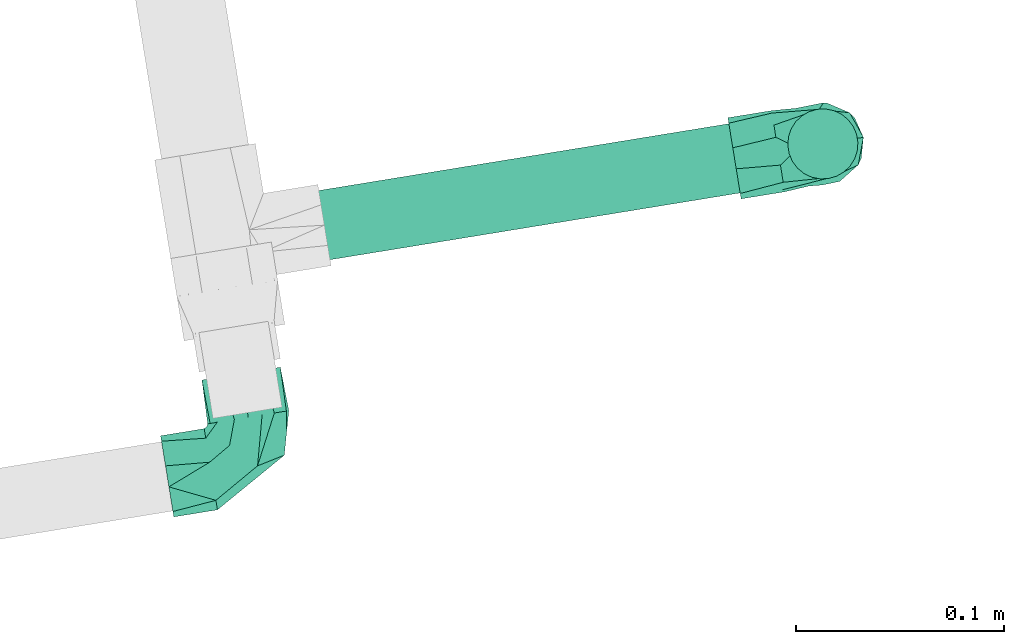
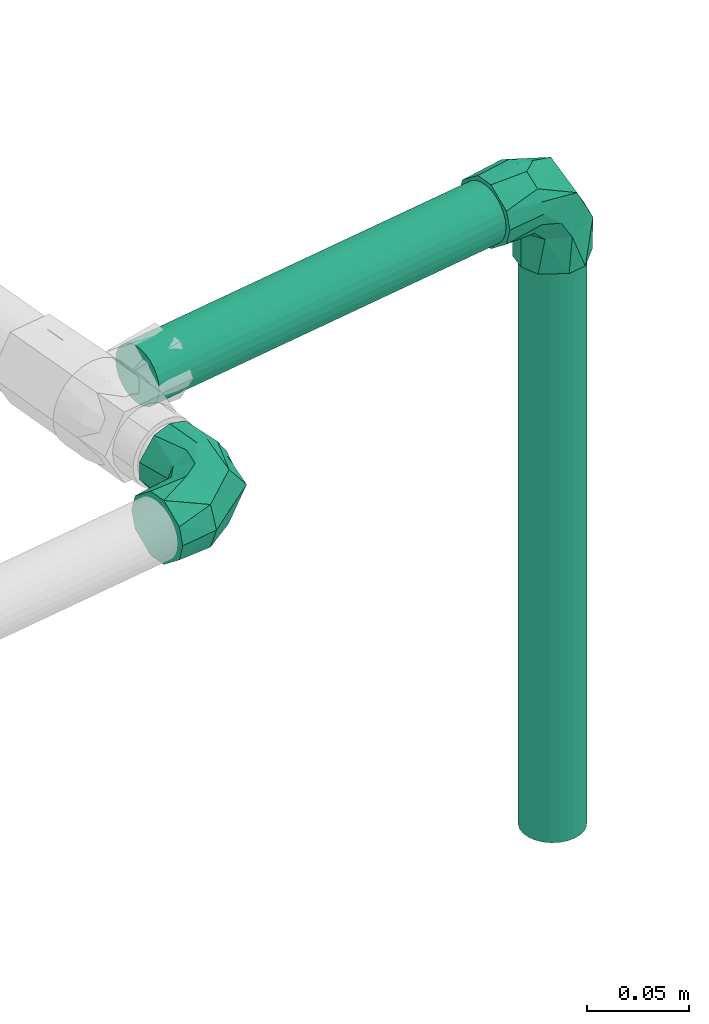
# One storey, part 26 of 46: 2 flow fittings, 2 flow segments.
"""IFC2X3 building model written with IfcOpenShell, lengths in millimetres."""

from ifc_helpers import new_model, entity, si_unit, converted_unit, derived_unit, direction, frame, frame_2d, origin, origin_with_axes, origin_2d_with_axis, place, context, subcontext, project, spatial, circle, extrude, faceted_brep, source, transform, mapped, material, type_object, element, save


model = new_model("IFC2X3")

# Units and contexts
model_context = context("Model", 3, precision=0.01, world=origin(), true_north=direction((6.12323399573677e-17, 1.0)))
plan_context = context("Plan", 3, precision=1e-05, world=origin_with_axes())
body_context = subcontext(model_context, "Body", "Model", "MODEL_VIEW")
ifc_project = project(units=[converted_unit("PLANEANGLEUNIT", "DEGREE", entity("IfcPositiveLengthMeasure", 0.0174532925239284), si_unit("PLANEANGLEUNIT", "RADIAN"), dimensions=[0, 0, 0, 0, 0, 0, 0]), si_unit("AREAUNIT", "SQUARE_METRE"), si_unit("LENGTHUNIT", "METRE", prefix="MILLI"), si_unit("MASSUNIT", "GRAM", prefix="KILO"), si_unit("POWERUNIT", "WATT"), si_unit("PRESSUREUNIT", "PASCAL", prefix="KILO"), si_unit("FORCEUNIT", "NEWTON", prefix="KILO"), si_unit("ELECTRICVOLTAGEUNIT", "VOLT"), si_unit("ELECTRICCURRENTUNIT", "AMPERE"), si_unit("THERMODYNAMICTEMPERATUREUNIT", "DEGREE_CELSIUS"), si_unit("TIMEUNIT", "SECOND"), si_unit("VOLUMEUNIT", "CUBIC_METRE"), derived_unit("LINEARVELOCITYUNIT", [(si_unit("LENGTHUNIT", "METRE"), 1), (si_unit("TIMEUNIT", "SECOND"), -1)]), derived_unit("VOLUMETRICFLOWRATEUNIT", [(si_unit("VOLUMEUNIT", "CUBIC_METRE"), 1), (si_unit("TIMEUNIT", "SECOND"), -1)]), derived_unit("THERMALTRANSMITTANCEUNIT", [(si_unit("POWERUNIT", "WATT"), 1), (si_unit("THERMODYNAMICTEMPERATUREUNIT", "KELVIN"), -1), (si_unit("AREAUNIT", "SQUARE_METRE"), -1)]), derived_unit("SOUNDPRESSUREUNIT", [(si_unit("PRESSUREUNIT", "PASCAL"), 1)])], contexts=[model_context, plan_context])

# Site, building, storey
site_placement = place(None, frame((-3.09682673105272e-06, 1.93776733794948e-05, 0.0), z_axis=(0.0, 0.0, 1.0), x_axis=(-0.160806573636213, 0.986985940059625, 0.0)))
site = spatial("IfcSite", under=ifc_project, at=site_placement, Name="Default", CompositionType="ELEMENT")
building_placement = place(site_placement, frame((0.0, 0.0, 0.0), z_axis=(0.0, 0.0, 1.0), x_axis=(1.0, -2.77555756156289e-17, 0.0)))
building = spatial("IfcBuilding", under=site, at=building_placement, Name="Bygning (endres i Project Information)", CompositionType="ELEMENT")
storey_placement = place(building_placement, frame((0.0, 0.0, 51360.0000000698), z_axis=(0.0, 0.0, 1.0), x_axis=(1.0, -2.77555756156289e-17, 0.0)))
storey = spatial("IfcBuildingStorey", under=building, at=storey_placement, Name="H01-Nivå D+0,36", CompositionType="ELEMENT", Elevation=51360.0000000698)

# Flow fittings
ifc_material = material(Name="3320.001")
pipe_fitting_type = type_object("IfcPipeFittingType", Name="RS_53_PIF_UN_Elbow-EN10241_NOR:RS_53_PIF_UN_Elbow-EN10241_NOR", PredefinedType="NOTDEFINED", material=ifc_material)
shared_shape = source(origin(), body_context, "Body", "Brep", [
    faceted_brep([(-43.0, 5.11167614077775, 19.0770350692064), (-43.0, 17.1040017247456, 9.87499999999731), (-43.0, 19.7500000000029, 0.0), (-43.0, 17.1040017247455, -9.87500000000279), (-43.0, 5.11167614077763, -19.0770350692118), (-43.0, -5.11167614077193, -19.0770350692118), (-43.0, -17.1040017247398, -9.87500000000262), (-43.0, -19.7499999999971, 0.0), (-43.0, -17.1040017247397, 9.87499999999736), (-43.0, -5.11167614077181, 19.0770350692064), (-21.7499999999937, -19.7499999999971, 0.0), (-21.7499999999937, -15.1293510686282, -12.6950870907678), (-21.7499999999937, -3.42946974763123, -19.4499675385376), (-21.7499999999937, 15.1294711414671, -12.694943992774), (-21.7499999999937, 19.7500000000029, 0.0), (-21.7499999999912, 5.85000069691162, -16.072455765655), (-21.7499999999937, 15.1294711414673, 12.6949439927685), (-21.7499999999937, 3.42965371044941, 19.4499351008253), (-21.7499999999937, -15.1293510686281, 12.6950870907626), (-5.41688095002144, -10.3200693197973, 0.0), (0.655979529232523, -2.00253561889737, 16.4678355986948), (-11.0449015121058, 9.84579831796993, 18.897380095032), (-18.5589216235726, 21.7499999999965, 6.75491881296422), (-15.1293490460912, 21.7499999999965, 12.6950895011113), (-20.3357864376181, 20.3357864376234, 0.0), (-19.7499999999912, 21.7499999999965, 0.0), (14.190054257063, 1.0, 0.0), (12.6950125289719, 21.7499999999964, 15.1294136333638), (6.75482439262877, 21.7499999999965, 18.5589559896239), (17.2232575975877, 12.3200689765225, 0.0), (-6.754824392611, 21.7499999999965, 18.558955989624), (19.7500000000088, 21.7499999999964, 0.0), (18.5589216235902, 21.7499999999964, 6.75491881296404), (0.0, 21.7499999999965, 19.7499999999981), (-18.5589216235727, 21.7499999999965, -6.75491881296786), (-10.1618436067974, 10.1618877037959, -19.0082217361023), (1.2569166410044, -0.890945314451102, -16.7093898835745), (0.0, 21.7499999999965, -19.7500000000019), (-6.75482439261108, 21.7499999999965, -18.5589559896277), (-12.6950125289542, 21.7499999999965, -15.1294136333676), (18.5589216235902, 21.7499999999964, -6.75491881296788), (15.1293490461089, 21.7499999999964, -12.6950895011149), (6.75482439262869, 21.7499999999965, -18.5589559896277), (-9.8749999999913, 43.0, 17.1040017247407), (0.0, 43.0, 19.7499999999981), (9.8750000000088, 43.0, 17.1040017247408), (19.0770350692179, 43.0, 5.11167614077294), (19.0770350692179, 43.0, -5.11167614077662), (9.87500000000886, 43.0, -17.1040017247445), (0.0, 43.0, -19.7500000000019), (-9.87499999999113, 43.0, -17.1040017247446), (-19.0770350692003, 43.0, -5.11167614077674), (-19.0770350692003, 43.0, 5.11167614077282)], [[[0, 1, 2, 3, 4, 5, 6, 7, 8, 9]], [[7, 6, 10]], [[6, 11, 10]], [[11, 6, 5]], [[11, 5, 12]], [[13, 4, 3]], [[14, 3, 2]], [[4, 13, 15, 12]], [[13, 3, 14]], [[4, 12, 5]], [[2, 1, 14]], [[1, 16, 14]], [[16, 1, 0]], [[16, 0, 17]], [[18, 9, 8]], [[10, 8, 7]], [[9, 18, 17]], [[18, 8, 10]], [[9, 17, 0]], [[18, 19, 20]], [[20, 21, 17]], [[22, 16, 23]], [[16, 17, 21]], [[24, 14, 22]], [[22, 25, 24]], [[14, 16, 22]], [[20, 26, 27]], [[27, 28, 20]], [[26, 29, 27]], [[23, 21, 30]], [[31, 32, 29]], [[18, 20, 17]], [[26, 20, 19]], [[21, 23, 16]], [[18, 10, 19]], [[33, 21, 20]], [[33, 30, 21]], [[27, 29, 32]], [[33, 20, 28]], [[14, 24, 34]], [[25, 34, 24]], [[12, 35, 36]], [[14, 34, 13]], [[36, 19, 11]], [[37, 35, 38]], [[38, 35, 39]], [[10, 11, 19]], [[34, 39, 13]], [[37, 36, 35]], [[36, 11, 12]], [[39, 35, 13]], [[40, 31, 29]], [[41, 36, 42]], [[36, 37, 42]], [[41, 40, 29]], [[26, 36, 41]], [[29, 26, 41]], [[19, 36, 26]], [[13, 35, 12, 15]], [[43, 44, 45, 46, 47, 48, 49, 50, 51, 52]], [[49, 37, 38]], [[50, 38, 39]], [[49, 38, 50]], [[51, 50, 39]], [[51, 34, 25]], [[34, 51, 39]], [[52, 25, 22]], [[22, 23, 52]], [[30, 43, 23]], [[52, 23, 43]], [[44, 43, 30]], [[33, 44, 30]], [[25, 52, 51]], [[44, 33, 28]], [[45, 28, 27]], [[44, 28, 45]], [[46, 45, 27]], [[46, 32, 31]], [[32, 46, 27]], [[47, 31, 40]], [[40, 41, 47]], [[42, 48, 41]], [[47, 41, 48]], [[49, 48, 42]], [[37, 49, 42]], [[31, 47, 46]]]),
])
for number, where, z_axis, x_axis in (
    (1, (1009037.43704419, -356019.614643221, 3400.0), (-1.0, 2.77555756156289e-17, 0.0), (0.0, 0.0, 1.0)),
    (2, (1008930.46730193, -355726.047207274, 3400.0), (0.0, 0.0, 1.0), (-2.77555756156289e-17, -1.0, 0.0)),
):
    element("IfcFlowFitting", number, at=place(storey_placement, frame(where, z_axis=z_axis, x_axis=x_axis)), inside=storey, type_object=pipe_fitting_type, material=ifc_material, Name="RS_53_PIF_UN_Elbow-EN10241_NOR:RS_53_PIF_UN_Elbow-EN10241_NOR", ObjectType="RS_53_PIF_UN_Elbow-EN10241_NOR:RS_53_PIF_UN_Elbow-EN10241_NOR", context=body_context, shape_type="MappedRepresentation", body=[
        mapped(shared_shape, transform((0.0, 0.0, 0.0), scale=1.0)),
    ])

# Flow segments
pipe_segment_type = type_object("IfcPipeSegmentType", Name="Pipe Types:Stålrør sveist og gjenget", PredefinedType="NOTDEFINED", material=ifc_material)
flow_segment_1_placement = place(storey_placement, frame((0.0, 0.0, 0.0), z_axis=(0.0, 0.0, 1.0), x_axis=(1.0, -2.77555756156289e-17, 0.0)))
element("IfcFlowSegment", 3, at=flow_segment_1_placement, inside=storey, type_object=pipe_segment_type, Name="Pipe Types:Stålrør sveist og gjenget", ObjectType="Pipe Types:Stålrør sveist og gjenget", context=body_context, shape_type="SweptSolid", body=[
    extrude(circle(Radius=16.8500004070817, at=origin_2d_with_axis()), frame((1009037.43704419, -356019.614643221, 3017.0), z_axis=(0.0, 0.0, 1.0), x_axis=(-1.0, 0.0, 0.0)), (0.0, 0.0, 1.0), 361.250000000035),
])
flow_segment_2_placement = place(storey_placement, frame((0.0, 0.0, 0.0), z_axis=(0.0, 0.0, 1.0), x_axis=(1.0, -2.77555756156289e-17, 0.0)))
element("IfcFlowSegment", 4, at=flow_segment_2_placement, inside=storey, type_object=pipe_segment_type, Name="Pipe Types:Stålrør sveist og gjenget", ObjectType="Pipe Types:Stålrør sveist og gjenget", context=body_context, shape_type="SweptSolid", body=[
    extrude(circle(Radius=16.8500004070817, at=frame_2d((0.0, -8.66293703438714e-12), x_axis=(1.0, 0.0))), frame((1009037.43704419, -355995.714643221, 3400.0), z_axis=(0.0, 1.0, 0.0), x_axis=(-1.0, 0.0, 0.0)), (0.0, 0.0, 1.0), 237.767435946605),
])

save(model, "model.ifc")
